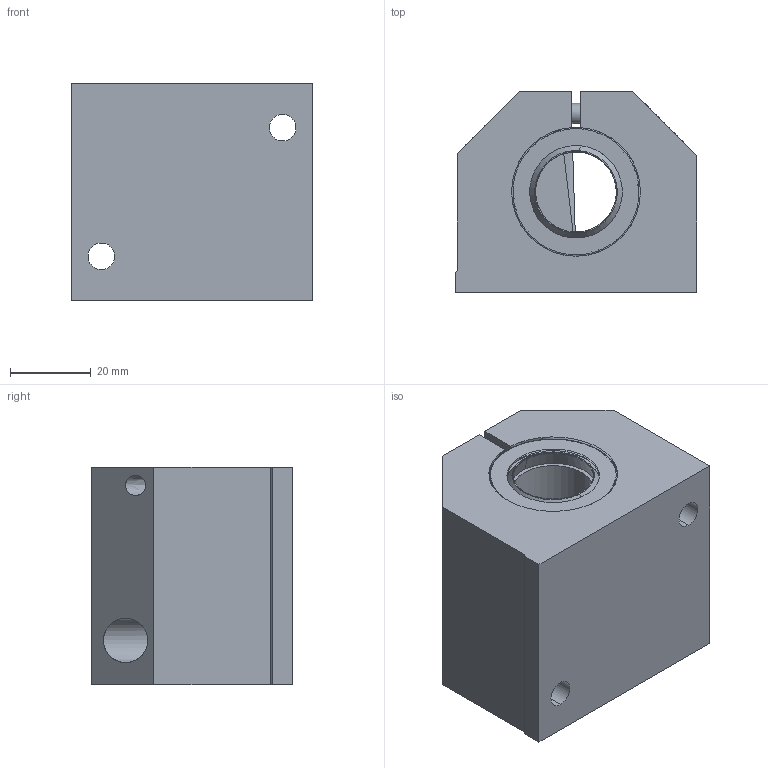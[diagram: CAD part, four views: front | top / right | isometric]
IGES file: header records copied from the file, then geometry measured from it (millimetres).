
Start section: 3D InterOp IGES (Version 21 0 1), Spatial Corp. Copyright (c) 1999-2007.
Global section: file name: SLS-20.igs; native system: Spatial Corp.; preprocessor: 3D InterOp GENERIC/IGES 3.0; author: Noname; organization: Noname; date: 20220309.161113; units: millimetre
Bounding box: 60 x 50 x 54 mm (x, y, z)
Surface area: 26396.5 mm2 (no closed solid volume)
Topology: 0 solids, 0 shells, 136 faces, 662 edges, 652 vertices
Faces by surface type: revolution 95, extrusion 41
